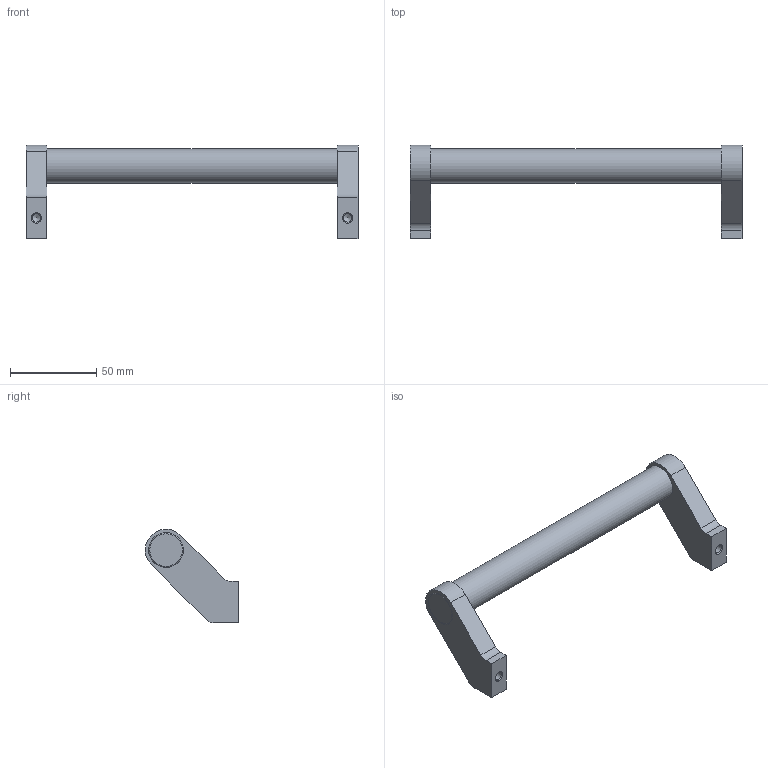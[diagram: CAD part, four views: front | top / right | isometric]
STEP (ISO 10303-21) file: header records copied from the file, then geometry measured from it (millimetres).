
FILE_DESCRIPTION( ( 'STEP AP203' ), '1' );
FILE_NAME( 'C:/Temp/Ganter_Step_05_03_2020/data/1_2/gn333/Tubular handle GN 333-20-180-A-SW.stp', '2020-03-05T10:16:07', ( 'License CC BY-ND 4.0' ), ( 'CADENAS' ), ' ', 'PARTsolutions', ' ' );
FILE_SCHEMA( ( 'CONFIG_CONTROL_DESIGN' ) );
Length unit declared in the file: millimetre
Products named in the file (1): _Tubular handle GN 333-20-180-A-SW
Bounding box: 192 x 53.95 x 53.95 mm (x, y, z)
Volume: 89026.7 mm3; surface area: 20661.3 mm2
Topology: 1 solids, 1 shells, 33 faces, 77 edges, 50 vertices
Faces by surface type: plane 16, cylinder 11, cone 4, torus 2
Full cylindrical faces by diameter (mm): 4.917 x2, 20 x3
Entity records: 906 total; most frequent: DIRECTION 156, CARTESIAN_POINT 144, ORIENTED_EDGE 124, EDGE_CURVE 62, AXIS2_PLACEMENT_3D 60, EDGE_LOOP 48, VERTEX_POINT 48, FACE_OUTER_BOUND 40
